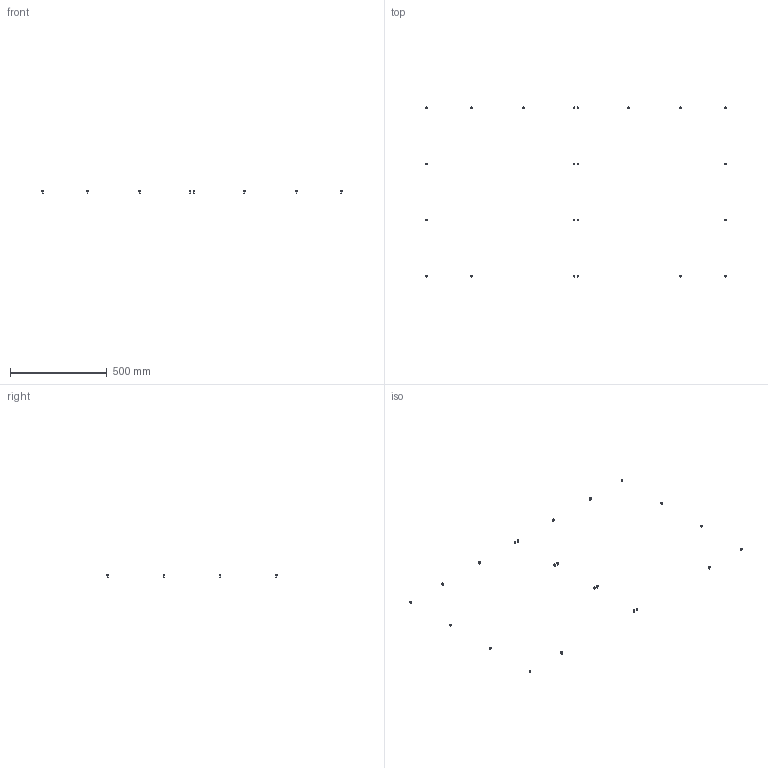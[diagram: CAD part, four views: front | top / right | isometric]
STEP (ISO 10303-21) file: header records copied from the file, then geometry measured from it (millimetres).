
FILE_DESCRIPTION(/* description */ (''),/* implementation_level */ '2;1');
FILE_NAME(/* name */ '13.door-panels#13.2#CB5-8',/* time_stamp */ '2014-12-01T20:19:46+01:00',/* author */ (''),/* organization */ (''),/* preprocessor_version */ 'ST-DEVELOPER v14',/* originating_system */ '',/* authorisation */ '');
FILE_SCHEMA (('AUTOMOTIVE_DESIGN'));
Length unit declared in the file: millimetre
Products named in the file (2): Document; screw DIN912-like, M5x08
Assembly tree (11 placements, depth 2):
  Document
    screw DIN912-like, M5x08  x11
Bounding box: 1552.5 x 878.48 x 13 mm (x, y, z)
Volume: 8780.5 mm3; surface area: 8688.3 mm2
Topology: 22 solids, 22 shells, 550 faces, 1232 edges, 726 vertices
Faces by surface type: plane 330, bspline 220
Entity records: 16401 total; most frequent: CARTESIAN_POINT 7550, B_SPLINE_CURVE_WITH_KNOTS 1512, ORIENTED_EDGE 1296, PCURVE 1296, DEFINITIONAL_REPRESENTATION 1296, SURFACE_CURVE 648, EDGE_CURVE 648, VERTEX_POINT 396
